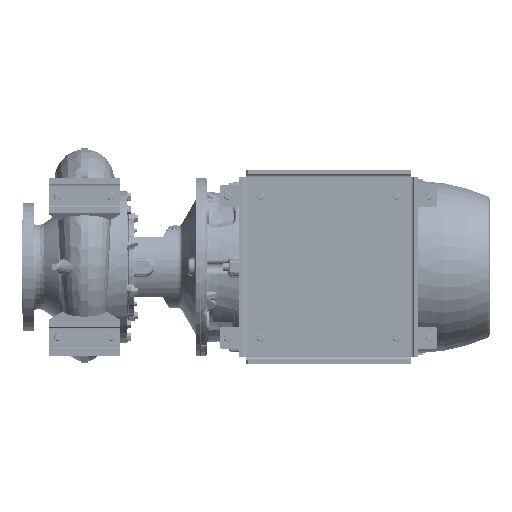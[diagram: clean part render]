
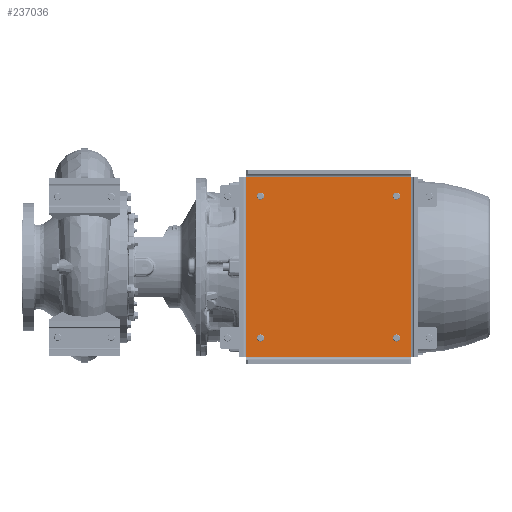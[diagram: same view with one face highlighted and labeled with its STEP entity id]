
A CAD part, front view. The second image highlights one B-rep face of the part: STEP entity #237036.
In plain terms, the highlighted planar face has unit normal (0, -1, 0).
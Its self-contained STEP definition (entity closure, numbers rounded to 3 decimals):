
#435 = EDGE_CURVE ( 'NONE', #92197, #213133, #60395, .T. ) ;
#1369 = CIRCLE ( 'NONE', #51708, 8. ) ;
#5256 = FACE_OUTER_BOUND ( 'NONE', #40486, .T. ) ;
#5903 = VERTEX_POINT ( 'NONE', #203288 ) ;
#13953 = CARTESIAN_POINT ( 'NONE',  ( 48.5, 41., -376. ) ) ;
#14240 = CARTESIAN_POINT ( 'NONE',  ( 386., 41., -16. ) ) ;
#15639 = DIRECTION ( 'NONE',  ( 0., 1., 0. ) ) ;
#20746 = DIRECTION ( 'NONE',  ( 0., 0., -1. ) ) ;
#22626 = CARTESIAN_POINT ( 'NONE',  ( 353.5, 41., -368. ) ) ;
#22994 = CARTESIAN_POINT ( 'NONE',  ( 48.5, 41., -66. ) ) ;
#23608 = DIRECTION ( 'NONE',  ( 0., 0., -1. ) ) ;
#25404 = DIRECTION ( 'NONE',  ( 0., 1., 0. ) ) ;
#34444 = DIRECTION ( 'NONE',  ( 0., 0., -1. ) ) ;
#40486 = EDGE_LOOP ( 'NONE', ( #303252, #129713, #263082, #163050 ) ) ;
#41315 = EDGE_CURVE ( 'NONE', #58829, #50586, #176737, .T. ) ;
#50586 = VERTEX_POINT ( 'NONE', #147932 ) ;
#51424 = EDGE_LOOP ( 'NONE', ( #190348, #214310 ) ) ;
#51708 = AXIS2_PLACEMENT_3D ( 'NONE', #260061, #209839, #88961 ) ;
#52409 = DIRECTION ( 'NONE',  ( 0., 1., 0. ) ) ;
#55169 = DIRECTION ( 'NONE',  ( 1., 0., 0. ) ) ;
#57124 = DIRECTION ( 'NONE',  ( 0., 0., -1. ) ) ;
#58829 = VERTEX_POINT ( 'NONE', #22994 ) ;
#59320 = CARTESIAN_POINT ( 'NONE',  ( 353.5, 41., -50. ) ) ;
#59766 = EDGE_CURVE ( 'NONE', #213133, #185686, #306673, .T. ) ;
#59794 = EDGE_CURVE ( 'NONE', #5903, #92197, #297039, .T. ) ;
#60395 = LINE ( 'NONE', #154666, #205130 ) ;
#67440 = ORIENTED_EDGE ( 'NONE', *, *, #262725, .T. ) ;
#72064 = VERTEX_POINT ( 'NONE', #171521 ) ;
#76048 = DIRECTION ( 'NONE',  ( 0., -1., 0. ) ) ;
#79102 = DIRECTION ( 'NONE',  ( 0., 0., -1. ) ) ;
#79169 = FACE_BOUND ( 'NONE', #84919, .T. ) ;
#84919 = EDGE_LOOP ( 'NONE', ( #67440, #309527 ) ) ;
#86726 = CIRCLE ( 'NONE', #177056, 8. ) ;
#88374 = VECTOR ( 'NONE', #148559, 1000. ) ;
#88449 = AXIS2_PLACEMENT_3D ( 'NONE', #210633, #238835, #23608 ) ;
#88961 = DIRECTION ( 'NONE',  ( 0., 0., -1. ) ) ;
#92197 = VERTEX_POINT ( 'NONE', #180947 ) ;
#95201 = EDGE_CURVE ( 'NONE', #185686, #5903, #178307, .T. ) ;
#97679 = DIRECTION ( 'NONE',  ( -1., 0., 0. ) ) ;
#120161 = CARTESIAN_POINT ( 'NONE',  ( 16., 41., -16. ) ) ;
#121224 = EDGE_CURVE ( 'NONE', #153770, #72064, #258870, .T. ) ;
#124402 = ORIENTED_EDGE ( 'NONE', *, *, #41315, .T. ) ;
#127794 = FACE_BOUND ( 'NONE', #185334, .T. ) ;
#127895 = AXIS2_PLACEMENT_3D ( 'NONE', #182234, #15639, #282653 ) ;
#129691 = ORIENTED_EDGE ( 'NONE', *, *, #274487, .T. ) ;
#129713 = ORIENTED_EDGE ( 'NONE', *, *, #59766, .T. ) ;
#138425 = CIRCLE ( 'NONE', #273842, 8. ) ;
#144904 = AXIS2_PLACEMENT_3D ( 'NONE', #294336, #76048, #57124 ) ;
#147932 = CARTESIAN_POINT ( 'NONE',  ( 48.5, 41., -50. ) ) ;
#148307 = FACE_BOUND ( 'NONE', #51424, .T. ) ;
#148559 = DIRECTION ( 'NONE',  ( 0., 0., -1. ) ) ;
#153770 = VERTEX_POINT ( 'NONE', #22626 ) ;
#154666 = CARTESIAN_POINT ( 'NONE',  ( 386., 41., -16. ) ) ;
#156963 = DIRECTION ( 'NONE',  ( 0., 0., -1. ) ) ;
#163050 = ORIENTED_EDGE ( 'NONE', *, *, #59794, .T. ) ;
#165221 = ORIENTED_EDGE ( 'NONE', *, *, #266578, .T. ) ;
#170247 = CARTESIAN_POINT ( 'NONE',  ( 353.5, 41., -58. ) ) ;
#171521 = CARTESIAN_POINT ( 'NONE',  ( 353.5, 41., -384. ) ) ;
#173023 = CARTESIAN_POINT ( 'NONE',  ( 386., 41., -418. ) ) ;
#173544 = CIRCLE ( 'NONE', #293988, 8. ) ;
#176737 = CIRCLE ( 'NONE', #257003, 8. ) ;
#177056 = AXIS2_PLACEMENT_3D ( 'NONE', #13953, #248139, #34444 ) ;
#178307 = LINE ( 'NONE', #274108, #88374 ) ;
#178400 = VERTEX_POINT ( 'NONE', #244230 ) ;
#180947 = CARTESIAN_POINT ( 'NONE',  ( 386., 41., -418. ) ) ;
#182234 = CARTESIAN_POINT ( 'NONE',  ( 353.5, 41., -376. ) ) ;
#185334 = EDGE_LOOP ( 'NONE', ( #129691, #124402 ) ) ;
#185686 = VERTEX_POINT ( 'NONE', #120161 ) ;
#188692 = CARTESIAN_POINT ( 'NONE',  ( 48.5, 41., -384. ) ) ;
#190348 = ORIENTED_EDGE ( 'NONE', *, *, #121224, .T. ) ;
#198151 = ORIENTED_EDGE ( 'NONE', *, *, #265902, .T. ) ;
#202350 = VERTEX_POINT ( 'NONE', #246602 ) ;
#203288 = CARTESIAN_POINT ( 'NONE',  ( 16., 41., -418. ) ) ;
#203973 = VERTEX_POINT ( 'NONE', #188692 ) ;
#205130 = VECTOR ( 'NONE', #277125, 1000. ) ;
#209839 = DIRECTION ( 'NONE',  ( 0., 1., 0. ) ) ;
#210633 = CARTESIAN_POINT ( 'NONE',  ( 48.5, 41., -58. ) ) ;
#213133 = VERTEX_POINT ( 'NONE', #14240 ) ;
#214310 = ORIENTED_EDGE ( 'NONE', *, *, #216208, .T. ) ;
#216208 = EDGE_CURVE ( 'NONE', #72064, #153770, #293400, .T. ) ;
#217028 = CARTESIAN_POINT ( 'NONE',  ( 16., 41., -16. ) ) ;
#227252 = DIRECTION ( 'NONE',  ( 0., 1., 0. ) ) ;
#230732 = DIRECTION ( 'NONE',  ( 0., 1., 0. ) ) ;
#231411 = EDGE_LOOP ( 'NONE', ( #165221, #198151 ) ) ;
#237036 = ADVANCED_FACE ( 'NONE', ( #127794, #5256, #148307, #272312, #79169 ), #248727, .T. ) ;
#238835 = DIRECTION ( 'NONE',  ( 0., 1., 0. ) ) ;
#239742 = VECTOR ( 'NONE', #97679, 1000. ) ;
#244230 = CARTESIAN_POINT ( 'NONE',  ( 48.5, 41., -368. ) ) ;
#246602 = CARTESIAN_POINT ( 'NONE',  ( 353.5, 41., -66. ) ) ;
#248139 = DIRECTION ( 'NONE',  ( 0., 1., 0. ) ) ;
#248727 = PLANE ( 'NONE',  #144904 ) ;
#257003 = AXIS2_PLACEMENT_3D ( 'NONE', #269744, #227252, #274417 ) ;
#258870 = CIRCLE ( 'NONE', #308907, 8. ) ;
#260061 = CARTESIAN_POINT ( 'NONE',  ( 48.5, 41., -376. ) ) ;
#262725 = EDGE_CURVE ( 'NONE', #304968, #202350, #173544, .T. ) ;
#263082 = ORIENTED_EDGE ( 'NONE', *, *, #95201, .T. ) ;
#265902 = EDGE_CURVE ( 'NONE', #203973, #178400, #1369, .T. ) ;
#266578 = EDGE_CURVE ( 'NONE', #178400, #203973, #86726, .T. ) ;
#269744 = CARTESIAN_POINT ( 'NONE',  ( 48.5, 41., -58. ) ) ;
#272312 = FACE_BOUND ( 'NONE', #231411, .T. ) ;
#273842 = AXIS2_PLACEMENT_3D ( 'NONE', #289309, #25404, #20746 ) ;
#274108 = CARTESIAN_POINT ( 'NONE',  ( 16., 41., -418. ) ) ;
#274417 = DIRECTION ( 'NONE',  ( 0., 0., -1. ) ) ;
#274487 = EDGE_CURVE ( 'NONE', #50586, #58829, #294272, .T. ) ;
#274990 = VECTOR ( 'NONE', #55169, 1000. ) ;
#276071 = EDGE_CURVE ( 'NONE', #202350, #304968, #138425, .T. ) ;
#277125 = DIRECTION ( 'NONE',  ( 0., 0., 1. ) ) ;
#282653 = DIRECTION ( 'NONE',  ( 0., 0., -1. ) ) ;
#289309 = CARTESIAN_POINT ( 'NONE',  ( 353.5, 41., -58. ) ) ;
#293400 = CIRCLE ( 'NONE', #127895, 8. ) ;
#293988 = AXIS2_PLACEMENT_3D ( 'NONE', #170247, #52409, #79102 ) ;
#294272 = CIRCLE ( 'NONE', #88449, 8. ) ;
#294336 = CARTESIAN_POINT ( 'NONE',  ( 0., 41., 0. ) ) ;
#297039 = LINE ( 'NONE', #173023, #274990 ) ;
#299914 = CARTESIAN_POINT ( 'NONE',  ( 353.5, 41., -376. ) ) ;
#303252 = ORIENTED_EDGE ( 'NONE', *, *, #435, .T. ) ;
#304968 = VERTEX_POINT ( 'NONE', #59320 ) ;
#306673 = LINE ( 'NONE', #217028, #239742 ) ;
#308907 = AXIS2_PLACEMENT_3D ( 'NONE', #299914, #230732, #156963 ) ;
#309527 = ORIENTED_EDGE ( 'NONE', *, *, #276071, .T. ) ;
